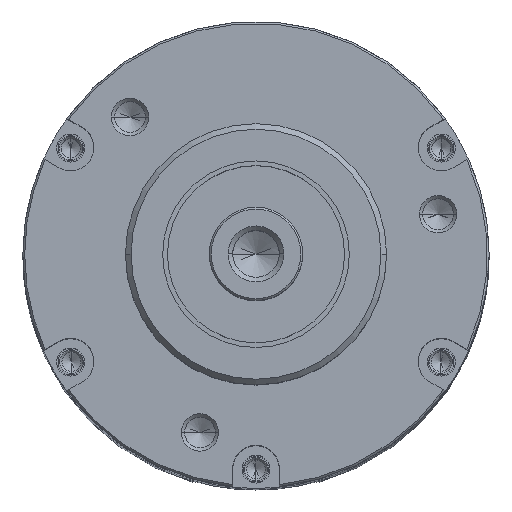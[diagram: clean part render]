
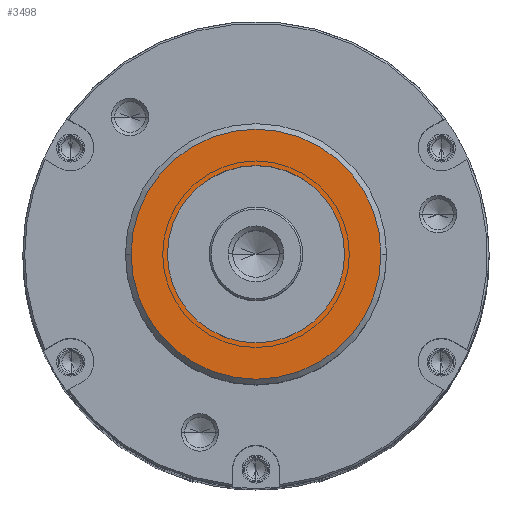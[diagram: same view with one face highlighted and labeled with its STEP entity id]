
A CAD part, top view. The second image highlights one B-rep face of the part: STEP entity #3498.
In plain terms, the highlighted planar face has unit normal (0, 0, 1).
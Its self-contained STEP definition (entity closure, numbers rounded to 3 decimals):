
#481 = DIRECTION ( 'NONE',  ( 1., 0., 0. ) ) ;
#487 = AXIS2_PLACEMENT_3D ( 'NONE', #10499, #810, #13021 ) ;
#684 = ORIENTED_EDGE ( 'NONE', *, *, #5153, .T. ) ;
#810 = DIRECTION ( 'NONE',  ( 0., 0., 1. ) ) ;
#1112 = EDGE_CURVE ( 'NONE', #13708, #10658, #10162, .T. ) ;
#2327 = ORIENTED_EDGE ( 'NONE', *, *, #1112, .T. ) ;
#2328 = VERTEX_POINT ( 'NONE', #7237 ) ;
#2565 = DIRECTION ( 'NONE',  ( 0., 0., -1. ) ) ;
#2740 = DIRECTION ( 'NONE',  ( -1., 0., 0. ) ) ;
#2794 = PLANE ( 'NONE',  #487 ) ;
#2930 = CARTESIAN_POINT ( 'NONE',  ( 9.5, 0., 61.8 ) ) ;
#3274 = AXIS2_PLACEMENT_3D ( 'NONE', #6600, #10043, #2740 ) ;
#3385 = AXIS2_PLACEMENT_3D ( 'NONE', #15205, #12643, #481 ) ;
#3498 = ADVANCED_FACE ( 'NONE', ( #7970, #6249 ), #2794, .T. ) ;
#3958 = CIRCLE ( 'NONE', #13362, 9.5 ) ;
#4857 = DIRECTION ( 'NONE',  ( 1., 0., 0. ) ) ;
#5009 = CARTESIAN_POINT ( 'NONE',  ( -9.5, 0., 61.8 ) ) ;
#5153 = EDGE_CURVE ( 'NONE', #10658, #13708, #3958, .T. ) ;
#5860 = CARTESIAN_POINT ( 'NONE',  ( 0., 0., 61.8 ) ) ;
#5982 = CIRCLE ( 'NONE', #9464, 13.4 ) ;
#6249 = FACE_BOUND ( 'NONE', #9321, .T. ) ;
#6408 = EDGE_CURVE ( 'NONE', #2328, #13504, #5982, .T. ) ;
#6600 = CARTESIAN_POINT ( 'NONE',  ( 0., 0., 61.8 ) ) ;
#7237 = CARTESIAN_POINT ( 'NONE',  ( -13.4, 0., 61.8 ) ) ;
#7407 = CARTESIAN_POINT ( 'NONE',  ( 13.4, 0., 61.8 ) ) ;
#7923 = ORIENTED_EDGE ( 'NONE', *, *, #6408, .T. ) ;
#7970 = FACE_OUTER_BOUND ( 'NONE', #13497, .T. ) ;
#8618 = CARTESIAN_POINT ( 'NONE',  ( 0., 0., 61.8 ) ) ;
#9321 = EDGE_LOOP ( 'NONE', ( #684, #2327 ) ) ;
#9464 = AXIS2_PLACEMENT_3D ( 'NONE', #5860, #14542, #4857 ) ;
#9711 = DIRECTION ( 'NONE',  ( -1., 0., 0. ) ) ;
#10043 = DIRECTION ( 'NONE',  ( 0., 0., -1. ) ) ;
#10049 = ORIENTED_EDGE ( 'NONE', *, *, #10139, .T. ) ;
#10139 = EDGE_CURVE ( 'NONE', #13504, #2328, #14317, .T. ) ;
#10162 = CIRCLE ( 'NONE', #3274, 9.5 ) ;
#10499 = CARTESIAN_POINT ( 'NONE',  ( 0., 9.5, 61.8 ) ) ;
#10658 = VERTEX_POINT ( 'NONE', #5009 ) ;
#12643 = DIRECTION ( 'NONE',  ( 0., 0., 1. ) ) ;
#13021 = DIRECTION ( 'NONE',  ( 1., 0., 0. ) ) ;
#13362 = AXIS2_PLACEMENT_3D ( 'NONE', #8618, #2565, #9711 ) ;
#13497 = EDGE_LOOP ( 'NONE', ( #7923, #10049 ) ) ;
#13504 = VERTEX_POINT ( 'NONE', #7407 ) ;
#13708 = VERTEX_POINT ( 'NONE', #2930 ) ;
#14317 = CIRCLE ( 'NONE', #3385, 13.4 ) ;
#14542 = DIRECTION ( 'NONE',  ( 0., 0., 1. ) ) ;
#15205 = CARTESIAN_POINT ( 'NONE',  ( 0., 0., 61.8 ) ) ;
